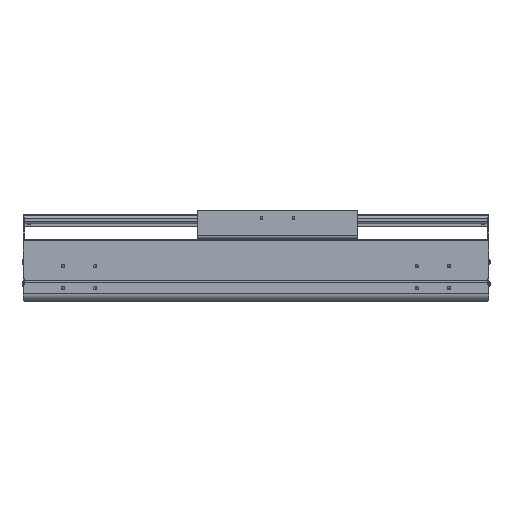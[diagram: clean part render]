
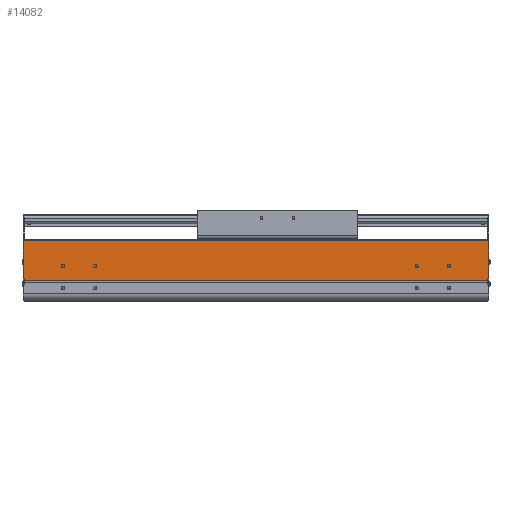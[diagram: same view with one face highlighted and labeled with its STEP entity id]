
A CAD part, top view. The second image highlights one B-rep face of the part: STEP entity #14082.
In plain terms, the highlighted planar face has unit normal (0, 0, 1).
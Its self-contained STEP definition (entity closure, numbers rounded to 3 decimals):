
#1786=DIRECTION('',(0.,-1.,0.));
#1787=VECTOR('',#1786,2.55);
#1788=CARTESIAN_POINT('',(0.,34.65,107.));
#1789=LINE('',#1788,#1787);
#2269=DIRECTION('',(1.,0.,0.));
#2270=VECTOR('',#2269,2.);
#2271=CARTESIAN_POINT('',(-721.,34.65,107.));
#2272=LINE('',#2271,#2270);
#2273=CARTESIAN_POINT('',(-59.5,54.,107.));
#2274=DIRECTION('',(0.,0.,-1.));
#2275=DIRECTION('',(1.,0.,0.));
#2276=AXIS2_PLACEMENT_3D('',#2273,#2274,#2275);
#2278=CARTESIAN_POINT('',(-59.5,54.,107.));
#2279=DIRECTION('',(0.,0.,-1.));
#2280=DIRECTION('',(-1.,0.,0.));
#2281=AXIS2_PLACEMENT_3D('',#2278,#2279,#2280);
#2283=CARTESIAN_POINT('',(-109.5,54.,107.));
#2284=DIRECTION('',(0.,0.,-1.));
#2285=DIRECTION('',(1.,0.,0.));
#2286=AXIS2_PLACEMENT_3D('',#2283,#2284,#2285);
#2288=CARTESIAN_POINT('',(-109.5,54.,107.));
#2289=DIRECTION('',(0.,0.,-1.));
#2290=DIRECTION('',(-1.,0.,0.));
#2291=AXIS2_PLACEMENT_3D('',#2288,#2289,#2290);
#2293=CARTESIAN_POINT('',(-659.5,54.,107.));
#2294=DIRECTION('',(0.,0.,-1.));
#2295=DIRECTION('',(1.,0.,0.));
#2296=AXIS2_PLACEMENT_3D('',#2293,#2294,#2295);
#2298=CARTESIAN_POINT('',(-659.5,54.,107.));
#2299=DIRECTION('',(0.,0.,-1.));
#2300=DIRECTION('',(-1.,0.,0.));
#2301=AXIS2_PLACEMENT_3D('',#2298,#2299,#2300);
#2303=CARTESIAN_POINT('',(-609.5,54.,107.));
#2304=DIRECTION('',(0.,0.,-1.));
#2305=DIRECTION('',(1.,0.,0.));
#2306=AXIS2_PLACEMENT_3D('',#2303,#2304,#2305);
#2308=CARTESIAN_POINT('',(-609.5,54.,107.));
#2309=DIRECTION('',(0.,0.,-1.));
#2310=DIRECTION('',(-1.,0.,0.));
#2311=AXIS2_PLACEMENT_3D('',#2308,#2309,#2310);
#2313=DIRECTION('',(0.,-1.,0.));
#2314=VECTOR('',#2313,2.55);
#2315=CARTESIAN_POINT('',(-719.,34.65,107.));
#2316=LINE('',#2315,#2314);
#2317=DIRECTION('',(0.,-1.,0.));
#2318=VECTOR('',#2317,58.85);
#2319=CARTESIAN_POINT('',(-721.,93.5,107.));
#2320=LINE('',#2319,#2318);
#2321=DIRECTION('',(0.,1.,0.));
#2322=VECTOR('',#2321,58.85);
#2323=CARTESIAN_POINT('',(2.,34.65,107.));
#2324=LINE('',#2323,#2322);
#2325=DIRECTION('',(1.,0.,0.));
#2326=VECTOR('',#2325,719.);
#2327=CARTESIAN_POINT('',(-719.,32.1,107.));
#2328=LINE('',#2327,#2326);
#2433=DIRECTION('',(-1.,0.,0.));
#2434=VECTOR('',#2433,723.);
#2435=CARTESIAN_POINT('',(2.,93.5,107.));
#2436=LINE('',#2435,#2434);
#7491=DIRECTION('',(1.,0.,0.));
#7492=VECTOR('',#7491,2.);
#7493=CARTESIAN_POINT('',(0.,34.65,107.));
#7494=LINE('',#7493,#7492);
#8877=CARTESIAN_POINT('',(-721.,34.65,107.));
#8878=VERTEX_POINT('',#8877);
#8879=CARTESIAN_POINT('',(-721.,93.5,107.));
#8880=VERTEX_POINT('',#8879);
#9109=CARTESIAN_POINT('',(-719.,32.1,107.));
#9110=VERTEX_POINT('',#9109);
#9353=CARTESIAN_POINT('',(0.,32.1,107.));
#9354=VERTEX_POINT('',#9353);
#9355=CARTESIAN_POINT('',(-57.,54.,107.));
#9356=CARTESIAN_POINT('',(-62.,54.,107.));
#9357=VERTEX_POINT('',#9355);
#9358=VERTEX_POINT('',#9356);
#9359=CARTESIAN_POINT('',(-107.,54.,107.));
#9360=CARTESIAN_POINT('',(-112.,54.,107.));
#9361=VERTEX_POINT('',#9359);
#9362=VERTEX_POINT('',#9360);
#9363=CARTESIAN_POINT('',(-657.,54.,107.));
#9364=CARTESIAN_POINT('',(-662.,54.,107.));
#9365=VERTEX_POINT('',#9363);
#9366=VERTEX_POINT('',#9364);
#9367=CARTESIAN_POINT('',(-607.,54.,107.));
#9368=CARTESIAN_POINT('',(-612.,54.,107.));
#9369=VERTEX_POINT('',#9367);
#9370=VERTEX_POINT('',#9368);
#9974=CARTESIAN_POINT('',(2.,34.65,107.));
#9975=VERTEX_POINT('',#9974);
#9976=CARTESIAN_POINT('',(2.,93.5,107.));
#9977=VERTEX_POINT('',#9976);
#10428=CARTESIAN_POINT('',(0.,34.65,107.));
#10429=VERTEX_POINT('',#10428);
#10508=CARTESIAN_POINT('',(-719.,34.65,107.));
#10509=VERTEX_POINT('',#10508);
#14040=CARTESIAN_POINT('',(-359.5,62.8,107.));
#14041=DIRECTION('',(0.,0.,1.));
#14042=DIRECTION('',(0.,-1.,0.));
#14043=AXIS2_PLACEMENT_3D('',#14040,#14041,#14042);
#14044=PLANE('',#14043);
#14045=ORIENTED_EDGE('',*,*,#11526,.F.);
#14046=ORIENTED_EDGE('',*,*,#14035,.F.);
#14047=ORIENTED_EDGE('',*,*,#12155,.F.);
#14049=ORIENTED_EDGE('',*,*,#14048,.F.);
#14050=ORIENTED_EDGE('',*,*,#11263,.F.);
#14052=ORIENTED_EDGE('',*,*,#14051,.F.);
#14053=ORIENTED_EDGE('',*,*,#13643,.T.);
#14055=ORIENTED_EDGE('',*,*,#14054,.F.);
#14056=EDGE_LOOP('',(#14045,#14046,#14047,#14049,#14050,#14052,#14053,#14055));
#14057=FACE_OUTER_BOUND('',#14056,.F.);
#14059=ORIENTED_EDGE('',*,*,#14058,.F.);
#14061=ORIENTED_EDGE('',*,*,#14060,.F.);
#14062=EDGE_LOOP('',(#14059,#14061));
#14063=FACE_BOUND('',#14062,.F.);
#14065=ORIENTED_EDGE('',*,*,#14064,.F.);
#14067=ORIENTED_EDGE('',*,*,#14066,.F.);
#14068=EDGE_LOOP('',(#14065,#14067));
#14069=FACE_BOUND('',#14068,.F.);
#14071=ORIENTED_EDGE('',*,*,#14070,.F.);
#14073=ORIENTED_EDGE('',*,*,#14072,.F.);
#14074=EDGE_LOOP('',(#14071,#14073));
#14075=FACE_BOUND('',#14074,.F.);
#14077=ORIENTED_EDGE('',*,*,#14076,.F.);
#14079=ORIENTED_EDGE('',*,*,#14078,.F.);
#14080=EDGE_LOOP('',(#14077,#14079));
#14081=FACE_BOUND('',#14080,.F.);
#14082=ADVANCED_FACE('',(#14057,#14063,#14069,#14075,#14081),#14044,.T.);
#2277=CIRCLE('',#2276,2.5);
#2282=CIRCLE('',#2281,2.5);
#2287=CIRCLE('',#2286,2.5);
#2292=CIRCLE('',#2291,2.5);
#2297=CIRCLE('',#2296,2.5);
#2302=CIRCLE('',#2301,2.5);
#2307=CIRCLE('',#2306,2.5);
#2312=CIRCLE('',#2311,2.5);
#11263=EDGE_CURVE('',#9975,#9977,#2324,.T.);
#11526=EDGE_CURVE('',#10509,#9110,#2316,.T.);
#12155=EDGE_CURVE('',#8880,#8878,#2320,.T.);
#13643=EDGE_CURVE('',#10429,#9354,#1789,.T.);
#14035=EDGE_CURVE('',#8878,#10509,#2272,.T.);
#14048=EDGE_CURVE('',#9977,#8880,#2436,.T.);
#14051=EDGE_CURVE('',#10429,#9975,#7494,.T.);
#14054=EDGE_CURVE('',#9110,#9354,#2328,.T.);
#14058=EDGE_CURVE('',#9361,#9362,#2287,.T.);
#14060=EDGE_CURVE('',#9362,#9361,#2292,.T.);
#14064=EDGE_CURVE('',#9365,#9366,#2297,.T.);
#14066=EDGE_CURVE('',#9366,#9365,#2302,.T.);
#14070=EDGE_CURVE('',#9369,#9370,#2307,.T.);
#14072=EDGE_CURVE('',#9370,#9369,#2312,.T.);
#14076=EDGE_CURVE('',#9357,#9358,#2277,.T.);
#14078=EDGE_CURVE('',#9358,#9357,#2282,.T.);
